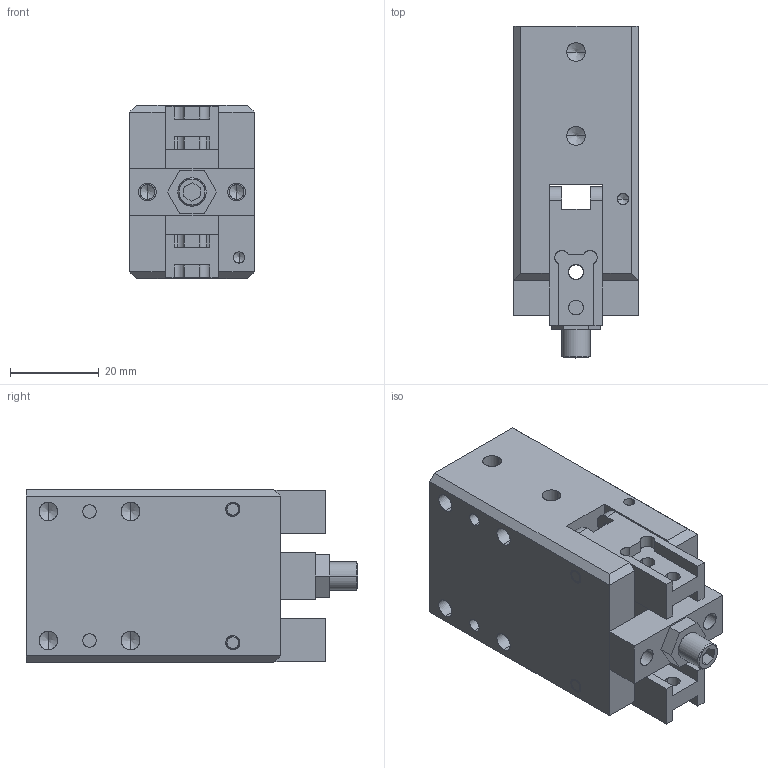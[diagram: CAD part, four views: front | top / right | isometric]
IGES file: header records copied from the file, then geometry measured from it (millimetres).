
Start section: SolidWorks IGES file using analytic representation for surfaces
Global section: file name: E:\AGI Automation\AGA-20\AGA-20 CLOSED in MM.IGS; native system: SolidWorks 2013; preprocessor: SolidWorks 2013; author: jmkuhnes; date: 141125.084042; units: millimetre
Bounding box: 27.99 x 74.6 x 38.99 mm (x, y, z)
Surface area: 18678.7 mm2 (no closed solid volume)
Topology: 0 solids, 0 shells, 236 faces, 3608 edges, 3576 vertices
Faces by surface type: revolution 152, bspline 84
